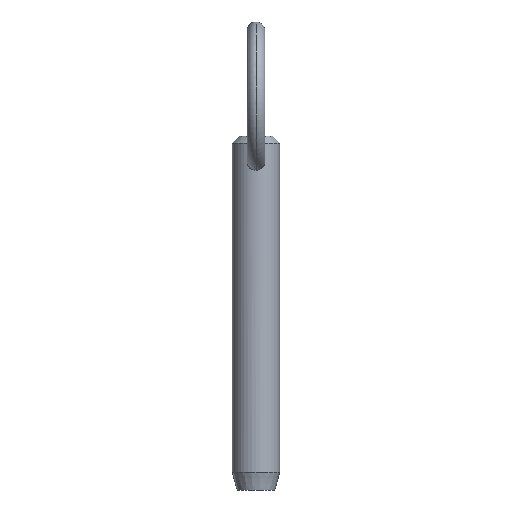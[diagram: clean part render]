
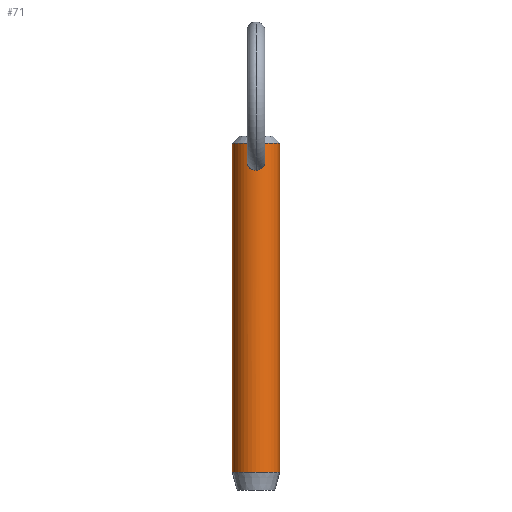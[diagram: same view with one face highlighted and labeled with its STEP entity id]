
A CAD part, front view. The second image highlights one B-rep face of the part: STEP entity #71.
In plain terms, the highlighted cylindrical face has radius 3.965 mm (diameter 7.93 mm), a partial arc.
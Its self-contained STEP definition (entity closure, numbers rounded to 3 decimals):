
#3 = CARTESIAN_POINT ( 'NONE',  ( 1.291, -3.75, 46.183 ) ) ;
#5 = CARTESIAN_POINT ( 'NONE',  ( -0.206, -3.961, 47.034 ) ) ;
#8 = CARTESIAN_POINT ( 'NONE',  ( -1.488, -3.675, 45.605 ) ) ;
#10 = DIRECTION ( 'NONE',  ( 0., 0., -1. ) ) ;
#25 = CIRCLE ( 'NONE', #273, 3.965 ) ;
#26 = VERTEX_POINT ( 'NONE', #360 ) ;
#28 = EDGE_CURVE ( 'NONE', #403, #324, #25, .T. ) ;
#29 = CARTESIAN_POINT ( 'NONE',  ( 0., -3.965, 47.047 ) ) ;
#39 = VECTOR ( 'NONE', #10, 1000. ) ;
#41 = ORIENTED_EDGE ( 'NONE', *, *, #355, .T. ) ;
#45 = CARTESIAN_POINT ( 'NONE',  ( 0.409, -3.948, 43.874 ) ) ;
#54 = FACE_OUTER_BOUND ( 'NONE', #147, .T. ) ;
#56 = CARTESIAN_POINT ( 'NONE',  ( 0., 0., 48.35 ) ) ;
#61 = CARTESIAN_POINT ( 'NONE',  ( 3.965, 0., -6.52 ) ) ;
#65 = DIRECTION ( 'NONE',  ( -1., 0., 0. ) ) ;
#66 = DIRECTION ( 'NONE',  ( 0., 0., 1. ) ) ;
#68 = FACE_BOUND ( 'NONE', #462, .T. ) ;
#71 = ADVANCED_FACE ( 'NONE', ( #54, #68 ), #421, .T. ) ;
#73 = CARTESIAN_POINT ( 'NONE',  ( 0.102, -3.965, 47.047 ) ) ;
#76 = CARTESIAN_POINT ( 'NONE',  ( -1.186, -3.786, 46.36 ) ) ;
#78 = CARTESIAN_POINT ( 'NONE',  ( -0.77, -3.894, 46.8 ) ) ;
#85 = CARTESIAN_POINT ( 'NONE',  ( 1.237, -3.77, 44.431 ) ) ;
#90 = CARTESIAN_POINT ( 'NONE',  ( 3.965, 0., 48.35 ) ) ;
#92 = CARTESIAN_POINT ( 'NONE',  ( 1.503, -3.669, 45.299 ) ) ;
#99 = DIRECTION ( 'NONE',  ( 1., 0., 0. ) ) ;
#106 = VECTOR ( 'NONE', #389, 1000. ) ;
#111 = B_SPLINE_CURVE_WITH_KNOTS ( 'NONE', 3,
 ( #459, #220, #473, #361, #510, #275, #274, #280, #436, #477, #234, #8, #441, #365, #76, #480, #78, #290, #238, #5, #168, #487 ),
 .UNSPECIFIED., .F., .F.,
 ( 4, 2, 2, 2, 2, 2, 2, 2, 2, 2, 4 ),
 ( 0.009, 0.01, 0.01, 0.011, 0.011, 0.012, 0.012, 0.013, 0.013, 0.014, 0.014 ),
 .UNSPECIFIED. ) ;
#119 = CARTESIAN_POINT ( 'NONE',  ( 0.498, -3.935, 46.944 ) ) ;
#137 = CARTESIAN_POINT ( 'NONE',  ( 1.499, -3.671, 45.197 ) ) ;
#147 = EDGE_LOOP ( 'NONE', ( #385, #370, #41, #175 ) ) ;
#162 = CARTESIAN_POINT ( 'NONE',  ( 0.205, -3.961, 47.034 ) ) ;
#168 = CARTESIAN_POINT ( 'NONE',  ( -0.102, -3.965, 47.047 ) ) ;
#169 = CARTESIAN_POINT ( 'NONE',  ( 0.205, -3.965, 43.835 ) ) ;
#175 = ORIENTED_EDGE ( 'NONE', *, *, #28, .T. ) ;
#179 = CARTESIAN_POINT ( 'NONE',  ( 0.693, -3.905, 43.99 ) ) ;
#181 = CARTESIAN_POINT ( 'NONE',  ( -3.965, 0., 43.2 ) ) ;
#198 = DIRECTION ( 'NONE',  ( -1., 0., 0. ) ) ;
#208 = CARTESIAN_POINT ( 'NONE',  ( 3.965, 0., 43.2 ) ) ;
#211 = CARTESIAN_POINT ( 'NONE',  ( 0.782, -3.888, 44.037 ) ) ;
#213 = CARTESIAN_POINT ( 'NONE',  ( 1.479, -3.679, 45.607 ) ) ;
#219 = CARTESIAN_POINT ( 'NONE',  ( 1.471, -3.682, 44.994 ) ) ;
#220 = CARTESIAN_POINT ( 'NONE',  ( -0.205, -3.965, 43.835 ) ) ;
#234 = CARTESIAN_POINT ( 'NONE',  ( -1.508, -3.667, 45.197 ) ) ;
#237 = EDGE_CURVE ( 'NONE', #393, #26, #359, .T. ) ;
#238 = CARTESIAN_POINT ( 'NONE',  ( -0.403, -3.946, 46.982 ) ) ;
#240 = CARTESIAN_POINT ( 'NONE',  ( -3.965, 0., -6.52 ) ) ;
#241 = CARTESIAN_POINT ( 'NONE',  ( 1.186, -3.786, 46.359 ) ) ;
#259 = LINE ( 'NONE', #208, #39 ) ;
#267 = EDGE_CURVE ( 'NONE', #296, #324, #259, .T. ) ;
#272 = DIRECTION ( 'NONE',  ( 0., 0., -1. ) ) ;
#273 = AXIS2_PLACEMENT_3D ( 'NONE', #434, #66, #198 ) ;
#274 = CARTESIAN_POINT ( 'NONE',  ( -1.229, -3.77, 44.439 ) ) ;
#275 = CARTESIAN_POINT ( 'NONE',  ( -1.168, -3.79, 44.359 ) ) ;
#280 = CARTESIAN_POINT ( 'NONE',  ( -1.335, -3.734, 44.61 ) ) ;
#286 = AXIS2_PLACEMENT_3D ( 'NONE', #428, #272, #65 ) ;
#290 = CARTESIAN_POINT ( 'NONE',  ( -0.498, -3.935, 46.944 ) ) ;
#291 = CARTESIAN_POINT ( 'NONE',  ( 1.434, -3.697, 45.805 ) ) ;
#296 = VERTEX_POINT ( 'NONE', #90 ) ;
#323 = EDGE_CURVE ( 'NONE', #296, #504, #409, .T. ) ;
#324 = VERTEX_POINT ( 'NONE', #61 ) ;
#339 = CARTESIAN_POINT ( 'NONE',  ( 1.404, -3.708, 45.901 ) ) ;
#347 = ORIENTED_EDGE ( 'NONE', *, *, #237, .T. ) ;
#355 = EDGE_CURVE ( 'NONE', #504, #403, #432, .T. ) ;
#359 = B_SPLINE_CURVE_WITH_KNOTS ( 'NONE', 3,
 ( #486, #73, #162, #478, #119, #404, #484, #241, #3, #339, #291, #213, #383, #92, #137, #219, #446, #417, #85, #489, #496, #211, #179, #45, #169, #456 ),
 .UNSPECIFIED., .F., .F.,
 ( 4, 2, 2, 2, 2, 2, 2, 2, 2, 2, 2, 2, 4 ),
 ( 0.004, 0.005, 0.005, 0.005, 0.006, 0.006, 0.007, 0.007, 0.007, 0.008, 0.008, 0.008, 0.009 ),
 .UNSPECIFIED. ) ;
#360 = CARTESIAN_POINT ( 'NONE',  ( 0., -3.965, 43.835 ) ) ;
#361 = CARTESIAN_POINT ( 'NONE',  ( -0.788, -3.891, 44.028 ) ) ;
#365 = CARTESIAN_POINT ( 'NONE',  ( -1.29, -3.75, 46.185 ) ) ;
#370 = ORIENTED_EDGE ( 'NONE', *, *, #323, .T. ) ;
#383 = CARTESIAN_POINT ( 'NONE',  ( 1.493, -3.673, 45.504 ) ) ;
#385 = ORIENTED_EDGE ( 'NONE', *, *, #267, .F. ) ;
#389 = DIRECTION ( 'NONE',  ( 0., 0., -1. ) ) ;
#392 = EDGE_CURVE ( 'NONE', #26, #393, #111, .T. ) ;
#393 = VERTEX_POINT ( 'NONE', #29 ) ;
#403 = VERTEX_POINT ( 'NONE', #240 ) ;
#404 = CARTESIAN_POINT ( 'NONE',  ( 0.77, -3.894, 46.8 ) ) ;
#409 = CIRCLE ( 'NONE', #442, 3.965 ) ;
#417 = CARTESIAN_POINT ( 'NONE',  ( 1.346, -3.73, 44.608 ) ) ;
#421 = CYLINDRICAL_SURFACE ( 'NONE', #286, 3.965 ) ;
#428 = CARTESIAN_POINT ( 'NONE',  ( 0., 0., 43.2 ) ) ;
#432 = LINE ( 'NONE', #181, #106 ) ;
#434 = CARTESIAN_POINT ( 'NONE',  ( 0., 0., -6.52 ) ) ;
#436 = CARTESIAN_POINT ( 'NONE',  ( -1.379, -3.718, 44.703 ) ) ;
#441 = CARTESIAN_POINT ( 'NONE',  ( -1.441, -3.695, 45.808 ) ) ;
#442 = AXIS2_PLACEMENT_3D ( 'NONE', #56, #463, #99 ) ;
#446 = CARTESIAN_POINT ( 'NONE',  ( 1.447, -3.692, 44.893 ) ) ;
#456 = CARTESIAN_POINT ( 'NONE',  ( 0., -3.965, 43.835 ) ) ;
#459 = CARTESIAN_POINT ( 'NONE',  ( 0., -3.965, 43.835 ) ) ;
#462 = EDGE_LOOP ( 'NONE', ( #347, #467 ) ) ;
#463 = DIRECTION ( 'NONE',  ( 0., 0., -1. ) ) ;
#467 = ORIENTED_EDGE ( 'NONE', *, *, #392, .T. ) ;
#473 = CARTESIAN_POINT ( 'NONE',  ( -0.41, -3.948, 43.874 ) ) ;
#477 = CARTESIAN_POINT ( 'NONE',  ( -1.48, -3.679, 44.989 ) ) ;
#478 = CARTESIAN_POINT ( 'NONE',  ( 0.404, -3.946, 46.982 ) ) ;
#480 = CARTESIAN_POINT ( 'NONE',  ( -0.925, -3.858, 46.668 ) ) ;
#484 = CARTESIAN_POINT ( 'NONE',  ( 0.925, -3.858, 46.668 ) ) ;
#486 = CARTESIAN_POINT ( 'NONE',  ( 0., -3.965, 47.047 ) ) ;
#487 = CARTESIAN_POINT ( 'NONE',  ( 0., -3.965, 47.047 ) ) ;
#489 = CARTESIAN_POINT ( 'NONE',  ( 1.028, -3.83, 44.215 ) ) ;
#496 = CARTESIAN_POINT ( 'NONE',  ( 0.949, -3.851, 44.149 ) ) ;
#504 = VERTEX_POINT ( 'NONE', #512 ) ;
#510 = CARTESIAN_POINT ( 'NONE',  ( -0.957, -3.85, 44.141 ) ) ;
#512 = CARTESIAN_POINT ( 'NONE',  ( -3.965, 0., 48.35 ) ) ;
